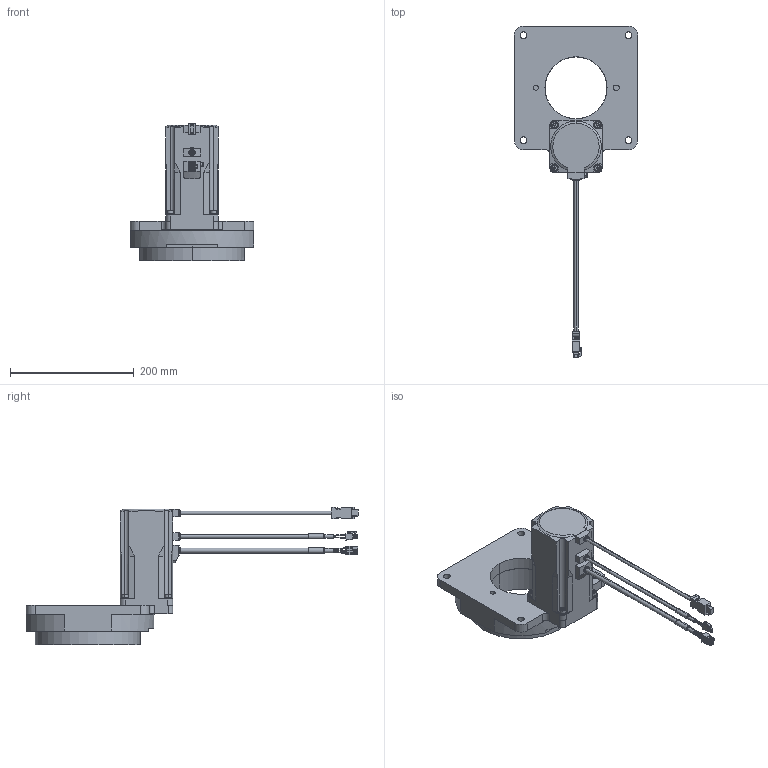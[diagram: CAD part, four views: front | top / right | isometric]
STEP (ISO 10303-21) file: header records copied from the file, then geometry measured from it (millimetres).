
FILE_DESCRIPTION (( 'STEP AP203' ), '1' );
FILE_NAME ('DGM200R-AZMC.STEP', '2015-04-17T07:39:53', ( 'om' ), ( 'Hewlett-Packard Company' ), 'SwSTEP 2.0', 'SolidWorks 2014', '' );
FILE_SCHEMA (( 'CONFIG_CONTROL_DESIGN' ));
Length unit declared in the file: millimetre
Products named in the file (1): DGM200R-AZMC
Bounding box: 200 x 537.5 x 222.4 mm (x, y, z)
Volume: 2469526.8 mm3; surface area: 243654.1 mm2
Topology: 1 solids, 13 shells, 1034 faces, 2710 edges, 1754 vertices
Faces by surface type: plane 678, cylinder 262, cone 54, bspline 19, torus 19, sphere 2
Entity records: 35025 total; most frequent: CARTESIAN_POINT 9271, ORIENTED_EDGE 5364, DIRECTION 5224, EDGE_CURVE 2682, LINE 1976, VECTOR 1976, VERTEX_POINT 1754, AXIS2_PLACEMENT_3D 1624
